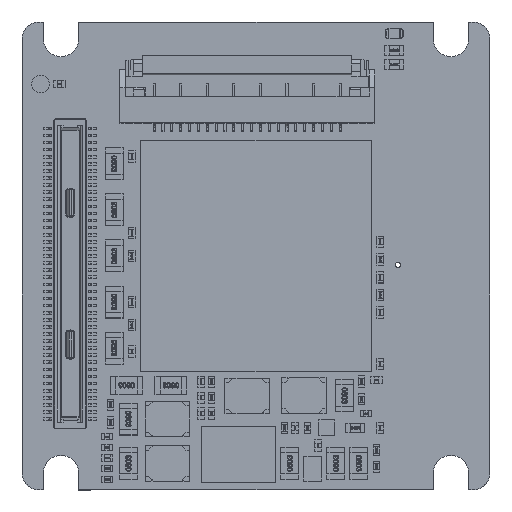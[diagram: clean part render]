
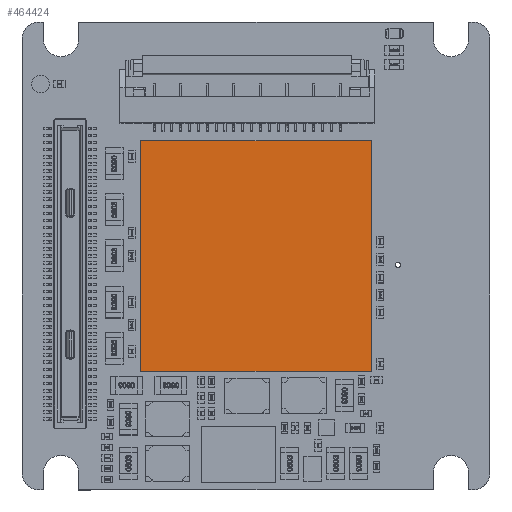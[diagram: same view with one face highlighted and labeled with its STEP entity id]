
A CAD part, top view. The second image highlights one B-rep face of the part: STEP entity #464424.
In plain terms, the highlighted planar face has unit normal (0, 0, 1).
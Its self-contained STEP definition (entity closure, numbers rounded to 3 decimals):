
#15501 = CARTESIAN_POINT ( 'NONE',  ( -6.5, 6.5, 6.237 ) ) ;
#19849 = VECTOR ( 'NONE', #448380, 1000. ) ;
#22023 = EDGE_LOOP ( 'NONE', ( #444415, #503187, #436900, #178350 ) ) ;
#28923 = LINE ( 'NONE', #115147, #235513 ) ;
#51770 = LINE ( 'NONE', #15501, #110751 ) ;
#77451 = EDGE_CURVE ( 'NONE', #116052, #368917, #28923, .T. ) ;
#84104 = PLANE ( 'NONE',  #525193 ) ;
#104478 = DIRECTION ( 'NONE',  ( 1., 0., 0. ) ) ;
#110751 = VECTOR ( 'NONE', #104478, 1000. ) ;
#115147 = CARTESIAN_POINT ( 'NONE',  ( 6.5, -6.5, 6.237 ) ) ;
#116052 = VERTEX_POINT ( 'NONE', #235330 ) ;
#120779 = VERTEX_POINT ( 'NONE', #152929 ) ;
#136715 = LINE ( 'NONE', #225714, #154044 ) ;
#152929 = CARTESIAN_POINT ( 'NONE',  ( -6.5, 6.5, 6.237 ) ) ;
#154044 = VECTOR ( 'NONE', #306565, 1000. ) ;
#168460 = EDGE_CURVE ( 'NONE', #368917, #120779, #136715, .T. ) ;
#178350 = ORIENTED_EDGE ( 'NONE', *, *, #168460, .F. ) ;
#209425 = DIRECTION ( 'NONE',  ( 0., 0., -1. ) ) ;
#214869 = VERTEX_POINT ( 'NONE', #444535 ) ;
#225714 = CARTESIAN_POINT ( 'NONE',  ( -6.5, -6.5, 6.237 ) ) ;
#235330 = CARTESIAN_POINT ( 'NONE',  ( 6.5, -6.5, 6.237 ) ) ;
#235513 = VECTOR ( 'NONE', #285153, 1000. ) ;
#285153 = DIRECTION ( 'NONE',  ( -1., 0., 0. ) ) ;
#287628 = CARTESIAN_POINT ( 'NONE',  ( 0., 0., 6.237 ) ) ;
#306565 = DIRECTION ( 'NONE',  ( 0., 1., 0. ) ) ;
#337613 = DIRECTION ( 'NONE',  ( 0., -1., 0. ) ) ;
#368917 = VERTEX_POINT ( 'NONE', #444546 ) ;
#436900 = ORIENTED_EDGE ( 'NONE', *, *, #484695, .F. ) ;
#444415 = ORIENTED_EDGE ( 'NONE', *, *, #77451, .F. ) ;
#444535 = CARTESIAN_POINT ( 'NONE',  ( 6.5, 6.5, 6.237 ) ) ;
#444546 = CARTESIAN_POINT ( 'NONE',  ( -6.5, -6.5, 6.237 ) ) ;
#448380 = DIRECTION ( 'NONE',  ( 0., -1., 0. ) ) ;
#457459 = FACE_OUTER_BOUND ( 'NONE', #22023, .T. ) ;
#464424 = ADVANCED_FACE ( 'NONE', ( #457459 ), #84104, .F. ) ;
#484695 = EDGE_CURVE ( 'NONE', #120779, #214869, #51770, .T. ) ;
#495709 = CARTESIAN_POINT ( 'NONE',  ( 6.5, 6.5, 6.237 ) ) ;
#503187 = ORIENTED_EDGE ( 'NONE', *, *, #518528, .F. ) ;
#518528 = EDGE_CURVE ( 'NONE', #214869, #116052, #534805, .T. ) ;
#525193 = AXIS2_PLACEMENT_3D ( 'NONE', #287628, #209425, #337613 ) ;
#534805 = LINE ( 'NONE', #495709, #19849 ) ;
